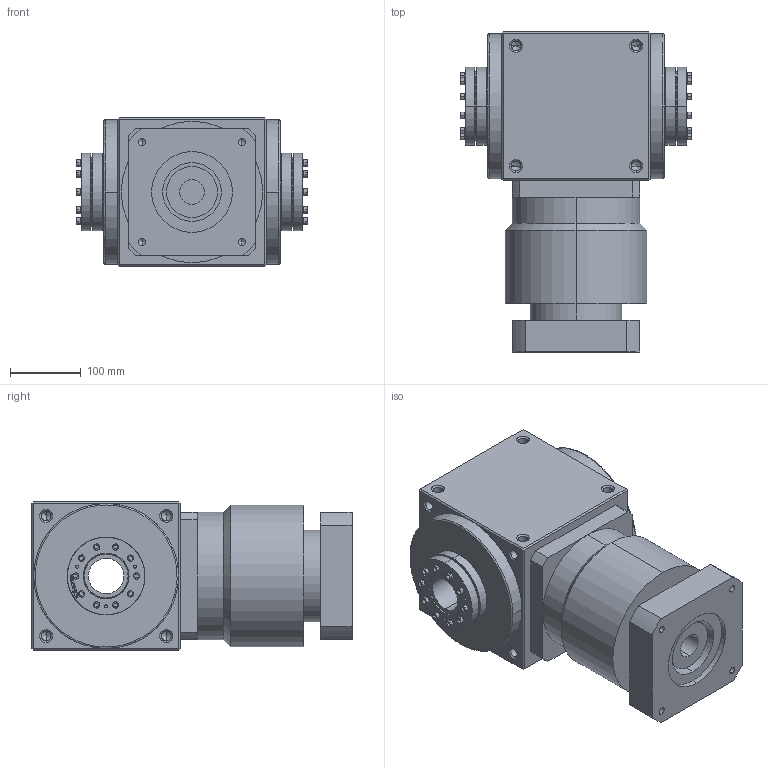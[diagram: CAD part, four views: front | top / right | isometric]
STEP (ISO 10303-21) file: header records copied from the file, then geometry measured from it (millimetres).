
FILE_DESCRIPTION (( 'STEP AP214' ), '1' );
FILE_NAME ('AT210-FC-L1 35-114.STEP', '2020-11-21T06:17:15', ( '微软用户' ), ( '微软中国' ), 'SwSTEP 2.0', 'SolidWorks 2014', '' );
FILE_SCHEMA (( 'AUTOMOTIVE_DESIGN' ));
Length unit declared in the file: millimetre
Products named in the file (8): 83_62x110_4; AT210-FC-L1-24-130-165-M10_1; AT210-FC-L1 35-114; 02
Assembly tree (4 placements, depth 2):
  83_62x110_4
  83_62x110_4
  AT210-FC-L1-24-130-165-M10_1
  AT210-FC-L1 35-114
    AT210-FC-L1-24-130-165-M10_1
    83_62x110_4  x2
    02
  02
Bounding box: 327.2 x 453 x 210 mm (x, y, z)
Volume: 17149848.3 mm3; surface area: 784581.7 mm2
Topology: 30 solids, 30 shells, 1407 faces, 3342 edges, 2014 vertices
Faces by surface type: cylinder 624, plane 353, cone 306, bspline 124
Entity records: 35668 total; most frequent: CARTESIAN_POINT 7324, DIRECTION 3970, ORIENTED_EDGE 3944, EDGE_CURVE 1972, AXIS2_PLACEMENT_3D 1522, VERTEX_POINT 1204, EDGE_LOOP 960, VECTOR 926
